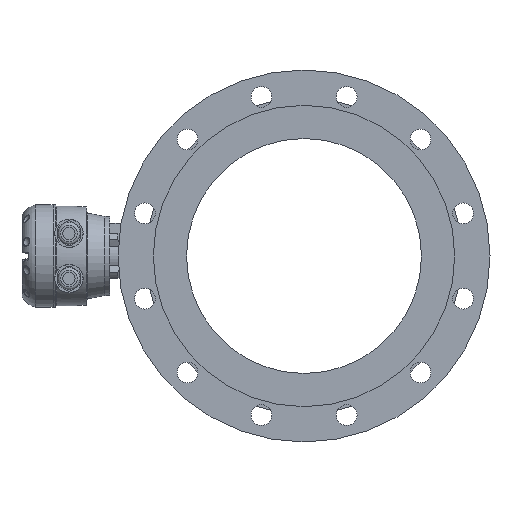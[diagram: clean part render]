
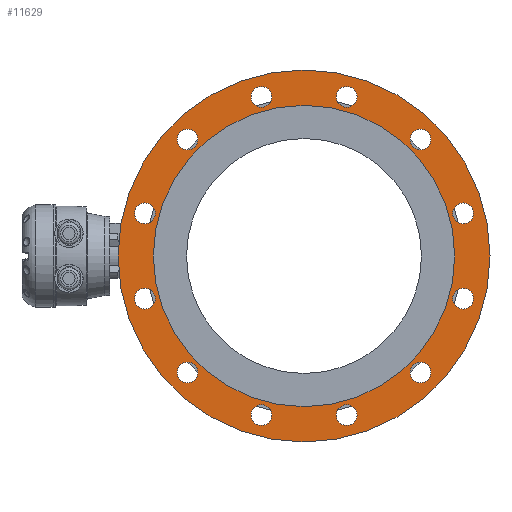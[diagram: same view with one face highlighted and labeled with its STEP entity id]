
A CAD part, left-side view. The second image highlights one B-rep face of the part: STEP entity #11629.
In plain terms, the highlighted planar face has unit normal (-1, 0, 0).
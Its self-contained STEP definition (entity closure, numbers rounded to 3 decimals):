
#207 = ORIENTED_EDGE ( 'NONE', *, *, #1969, .F. ) ;
#208 = ORIENTED_EDGE ( 'NONE', *, *, #9959, .F. ) ;
#209 = ORIENTED_EDGE ( 'NONE', *, *, #9957, .F. ) ;
#210 = ORIENTED_EDGE ( 'NONE', *, *, #10006, .F. ) ;
#211 = ORIENTED_EDGE ( 'NONE', *, *, #10017, .F. ) ;
#212 = ORIENTED_EDGE ( 'NONE', *, *, #9992, .F. ) ;
#213 = ORIENTED_EDGE ( 'NONE', *, *, #9985, .F. ) ;
#214 = ORIENTED_EDGE ( 'NONE', *, *, #9971, .F. ) ;
#215 = ORIENTED_EDGE ( 'NONE', *, *, #9968, .F. ) ;
#216 = ORIENTED_EDGE ( 'NONE', *, *, #9965, .F. ) ;
#217 = ORIENTED_EDGE ( 'NONE', *, *, #9958, .F. ) ;
#218 = ORIENTED_EDGE ( 'NONE', *, *, #9960, .F. ) ;
#219 = ORIENTED_EDGE ( 'NONE', *, *, #10114, .F. ) ;
#220 = ORIENTED_EDGE ( 'NONE', *, *, #9973, .T. ) ;
#746 = CIRCLE ( 'NONE', #10186, 11. ) ;
#1969 = EDGE_CURVE ( 'NONE', #13999, #13999, #746, .T. ) ;
#3879 = EDGE_LOOP ( 'NONE', ( #208 ) ) ;
#3880 = EDGE_LOOP ( 'NONE', ( #210 ) ) ;
#3881 = EDGE_LOOP ( 'NONE', ( #209 ) ) ;
#3882 = EDGE_LOOP ( 'NONE', ( #212 ) ) ;
#3883 = EDGE_LOOP ( 'NONE', ( #211 ) ) ;
#3884 = EDGE_LOOP ( 'NONE', ( #214 ) ) ;
#3885 = EDGE_LOOP ( 'NONE', ( #213 ) ) ;
#3886 = EDGE_LOOP ( 'NONE', ( #216 ) ) ;
#3887 = EDGE_LOOP ( 'NONE', ( #215 ) ) ;
#3903 = EDGE_LOOP ( 'NONE', ( #217 ) ) ;
#3904 = EDGE_LOOP ( 'NONE', ( #218 ) ) ;
#3905 = EDGE_LOOP ( 'NONE', ( #207 ) ) ;
#3934 = EDGE_LOOP ( 'NONE', ( #219 ) ) ;
#3935 = EDGE_LOOP ( 'NONE', ( #220 ) ) ;
#6500 = CARTESIAN_POINT ( 'NONE',  ( -189.805, -154.724, 158.494 ) ) ;
#6503 = CARTESIAN_POINT ( 'NONE',  ( -189.805, -76.273, -134.286 ) ) ;
#6506 = CARTESIAN_POINT ( 'NONE',  ( -189.805, -76.273, 113.201 ) ) ;
#6507 = DIRECTION ( 'NONE',  ( -1., 0., 0. ) ) ;
#6508 = DIRECTION ( 'NONE',  ( 0., 0., 1. ) ) ;
#6509 = CARTESIAN_POINT ( 'NONE',  ( -189.805, -30.98, -55.836 ) ) ;
#6510 = DIRECTION ( 'NONE',  ( -1., 0., 0. ) ) ;
#6511 = DIRECTION ( 'NONE',  ( 0., 0., 1. ) ) ;
#6513 = DIRECTION ( 'NONE',  ( -1., 0., 0. ) ) ;
#6514 = DIRECTION ( 'NONE',  ( 0., 0., 1. ) ) ;
#6516 = DIRECTION ( 'NONE',  ( -1., 0., 0. ) ) ;
#6517 = DIRECTION ( 'NONE',  ( 0., 0., 1. ) ) ;
#6524 = CARTESIAN_POINT ( 'NONE',  ( -189.805, -154.724, -179.58 ) ) ;
#6531 = DIRECTION ( 'NONE',  ( -1., 0., 0. ) ) ;
#6532 = DIRECTION ( 'NONE',  ( 0., 0., 1. ) ) ;
#6533 = CARTESIAN_POINT ( 'NONE',  ( -189.805, -245.31, -179.58 ) ) ;
#6540 = DIRECTION ( 'NONE',  ( -1., 0., 0. ) ) ;
#6541 = DIRECTION ( 'NONE',  ( 0., 0., 1. ) ) ;
#6542 = CARTESIAN_POINT ( 'NONE',  ( -189.805, -323.761, -134.286 ) ) ;
#6548 = CARTESIAN_POINT ( 'NONE',  ( -189.805, -200.017, -10.543 ) ) ;
#6549 = DIRECTION ( 'NONE',  ( -1., 0., 0. ) ) ;
#6550 = DIRECTION ( 'NONE',  ( 0., 0., 1. ) ) ;
#6555 = DIRECTION ( 'NONE',  ( 1., 0., 0. ) ) ;
#6556 = DIRECTION ( 'NONE',  ( 0., 0., -1. ) ) ;
#6583 = CARTESIAN_POINT ( 'NONE',  ( -189.805, -369.054, -55.836 ) ) ;
#6591 = DIRECTION ( 'NONE',  ( -1., 0., 0. ) ) ;
#6592 = DIRECTION ( 'NONE',  ( 0., 0., 1. ) ) ;
#6655 = CARTESIAN_POINT ( 'NONE',  ( -189.805, -369.054, 34.751 ) ) ;
#6656 = DIRECTION ( 'NONE',  ( -1., 0., 0. ) ) ;
#6657 = DIRECTION ( 'NONE',  ( 0., 0., 1. ) ) ;
#6713 = CARTESIAN_POINT ( 'NONE',  ( -189.805, -245.31, 158.494 ) ) ;
#6720 = DIRECTION ( 'NONE',  ( -1., 0., 0. ) ) ;
#6721 = DIRECTION ( 'NONE',  ( 0., 0., 1. ) ) ;
#6771 = CARTESIAN_POINT ( 'NONE',  ( -189.805, -323.761, 113.201 ) ) ;
#6772 = DIRECTION ( 'NONE',  ( -1., 0., 0. ) ) ;
#6773 = DIRECTION ( 'NONE',  ( 0., 0., 1. ) ) ;
#6968 = CARTESIAN_POINT ( 'NONE',  ( -189.805, -200.017, -10.543 ) ) ;
#6986 = DIRECTION ( 'NONE',  ( 1., 0., 0. ) ) ;
#6987 = DIRECTION ( 'NONE',  ( 0., 0., -1. ) ) ;
#7421 = CARTESIAN_POINT ( 'NONE',  ( -189.805, -30.98, 34.751 ) ) ;
#7423 = DIRECTION ( 'NONE',  ( -1., 0., 0. ) ) ;
#7424 = DIRECTION ( 'NONE',  ( 0., 0., 1. ) ) ;
#9957 = EDGE_CURVE ( 'NONE', #14109, #14109, #11892, .T. ) ;
#9958 = EDGE_CURVE ( 'NONE', #14111, #14111, #11893, .T. ) ;
#9959 = EDGE_CURVE ( 'NONE', #14113, #14113, #11894, .T. ) ;
#9960 = EDGE_CURVE ( 'NONE', #14115, #14115, #11895, .T. ) ;
#9965 = EDGE_CURVE ( 'NONE', #14125, #14125, #11900, .T. ) ;
#9968 = EDGE_CURVE ( 'NONE', #14131, #14131, #11903, .T. ) ;
#9971 = EDGE_CURVE ( 'NONE', #14137, #14137, #11906, .T. ) ;
#9973 = EDGE_CURVE ( 'NONE', #14141, #14141, #11908, .T. ) ;
#9985 = EDGE_CURVE ( 'NONE', #14161, #14161, #11920, .T. ) ;
#9992 = EDGE_CURVE ( 'NONE', #14171, #14171, #11927, .T. ) ;
#10006 = EDGE_CURVE ( 'NONE', #14197, #14197, #11940, .T. ) ;
#10017 = EDGE_CURVE ( 'NONE', #14215, #14215, #11950, .T. ) ;
#10114 = EDGE_CURVE ( 'NONE', #14225, #14225, #12125, .T. ) ;
#10186 = AXIS2_PLACEMENT_3D ( 'NONE', #7421, #7423, #7424 ) ;
#10292 = AXIS2_PLACEMENT_3D ( 'NONE', #6968, #6986, #6987 ) ;
#10299 = AXIS2_PLACEMENT_3D ( 'NONE', #6500, #6507, #6508 ) ;
#10300 = AXIS2_PLACEMENT_3D ( 'NONE', #6503, #6510, #6511 ) ;
#10301 = AXIS2_PLACEMENT_3D ( 'NONE', #6506, #6513, #6514 ) ;
#10302 = AXIS2_PLACEMENT_3D ( 'NONE', #6509, #6516, #6517 ) ;
#10307 = AXIS2_PLACEMENT_3D ( 'NONE', #6524, #6531, #6532 ) ;
#10310 = AXIS2_PLACEMENT_3D ( 'NONE', #6533, #6540, #6541 ) ;
#10313 = AXIS2_PLACEMENT_3D ( 'NONE', #6542, #6549, #6550 ) ;
#10315 = AXIS2_PLACEMENT_3D ( 'NONE', #6548, #6555, #6556 ) ;
#10327 = AXIS2_PLACEMENT_3D ( 'NONE', #6583, #6591, #6592 ) ;
#10332 = AXIS2_PLACEMENT_3D ( 'NONE', #6655, #6656, #6657 ) ;
#10345 = AXIS2_PLACEMENT_3D ( 'NONE', #6713, #6720, #6721 ) ;
#10354 = AXIS2_PLACEMENT_3D ( 'NONE', #6771, #6772, #6773 ) ;
#10468 = AXIS2_PLACEMENT_3D ( 'NONE', #13051, #13052, #13053 ) ;
#11629 = ADVANCED_FACE ( 'NONE', ( #12442, #12448, #12450, #12452, #12446, #12441, #12449, #12451, #12453, #12447, #12454, #12455, #12456, #12457 ), #13047, .T. ) ;
#11892 = CIRCLE ( 'NONE', #10299, 11. ) ;
#11893 = CIRCLE ( 'NONE', #10300, 11. ) ;
#11894 = CIRCLE ( 'NONE', #10301, 11. ) ;
#11895 = CIRCLE ( 'NONE', #10302, 11. ) ;
#11900 = CIRCLE ( 'NONE', #10307, 11. ) ;
#11903 = CIRCLE ( 'NONE', #10310, 11. ) ;
#11906 = CIRCLE ( 'NONE', #10313, 11. ) ;
#11908 = CIRCLE ( 'NONE', #10315, 160. ) ;
#11920 = CIRCLE ( 'NONE', #10327, 11. ) ;
#11927 = CIRCLE ( 'NONE', #10332, 11. ) ;
#11940 = CIRCLE ( 'NONE', #10345, 11. ) ;
#11950 = CIRCLE ( 'NONE', #10354, 11. ) ;
#12125 = CIRCLE ( 'NONE', #10292, 197.5 ) ;
#12441 = FACE_BOUND ( 'NONE', #3882, .T. ) ;
#12442 = FACE_BOUND ( 'NONE', #3905, .T. ) ;
#12446 = FACE_BOUND ( 'NONE', #3883, .T. ) ;
#12447 = FACE_BOUND ( 'NONE', #3886, .T. ) ;
#12448 = FACE_BOUND ( 'NONE', #3879, .T. ) ;
#12449 = FACE_BOUND ( 'NONE', #3885, .T. ) ;
#12450 = FACE_BOUND ( 'NONE', #3881, .T. ) ;
#12451 = FACE_BOUND ( 'NONE', #3884, .T. ) ;
#12452 = FACE_BOUND ( 'NONE', #3880, .T. ) ;
#12453 = FACE_BOUND ( 'NONE', #3887, .T. ) ;
#12454 = FACE_BOUND ( 'NONE', #3903, .T. ) ;
#12455 = FACE_BOUND ( 'NONE', #3904, .T. ) ;
#12456 = FACE_OUTER_BOUND ( 'NONE', #3934, .T. ) ;
#12457 = FACE_BOUND ( 'NONE', #3935, .T. ) ;
#13047 = PLANE ( 'NONE',  #10468 ) ;
#13051 = CARTESIAN_POINT ( 'NONE',  ( -189.805, -200.017, -10.543 ) ) ;
#13052 = DIRECTION ( 'NONE',  ( -1., 0., 0. ) ) ;
#13053 = DIRECTION ( 'NONE',  ( 0., 0., -1. ) ) ;
#13999 = VERTEX_POINT ( 'NONE', #14000 ) ;
#14000 = CARTESIAN_POINT ( 'NONE',  ( -189.805, -30.98, 45.751 ) ) ;
#14109 = VERTEX_POINT ( 'NONE', #14110 ) ;
#14110 = CARTESIAN_POINT ( 'NONE',  ( -189.805, -154.724, 169.494 ) ) ;
#14111 = VERTEX_POINT ( 'NONE', #14112 ) ;
#14112 = CARTESIAN_POINT ( 'NONE',  ( -189.805, -76.273, -123.286 ) ) ;
#14113 = VERTEX_POINT ( 'NONE', #14114 ) ;
#14114 = CARTESIAN_POINT ( 'NONE',  ( -189.805, -76.273, 124.201 ) ) ;
#14115 = VERTEX_POINT ( 'NONE', #14116 ) ;
#14116 = CARTESIAN_POINT ( 'NONE',  ( -189.805, -30.98, -44.836 ) ) ;
#14125 = VERTEX_POINT ( 'NONE', #14126 ) ;
#14126 = CARTESIAN_POINT ( 'NONE',  ( -189.805, -154.724, -168.58 ) ) ;
#14131 = VERTEX_POINT ( 'NONE', #14132 ) ;
#14132 = CARTESIAN_POINT ( 'NONE',  ( -189.805, -245.31, -168.58 ) ) ;
#14137 = VERTEX_POINT ( 'NONE', #14138 ) ;
#14138 = CARTESIAN_POINT ( 'NONE',  ( -189.805, -323.761, -123.286 ) ) ;
#14141 = VERTEX_POINT ( 'NONE', #14142 ) ;
#14142 = CARTESIAN_POINT ( 'NONE',  ( -189.805, -200.017, -170.543 ) ) ;
#14161 = VERTEX_POINT ( 'NONE', #14162 ) ;
#14162 = CARTESIAN_POINT ( 'NONE',  ( -189.805, -369.054, -44.836 ) ) ;
#14171 = VERTEX_POINT ( 'NONE', #14172 ) ;
#14172 = CARTESIAN_POINT ( 'NONE',  ( -189.805, -369.054, 45.751 ) ) ;
#14197 = VERTEX_POINT ( 'NONE', #14198 ) ;
#14198 = CARTESIAN_POINT ( 'NONE',  ( -189.805, -245.31, 169.494 ) ) ;
#14215 = VERTEX_POINT ( 'NONE', #14216 ) ;
#14216 = CARTESIAN_POINT ( 'NONE',  ( -189.805, -323.761, 124.201 ) ) ;
#14225 = VERTEX_POINT ( 'NONE', #14226 ) ;
#14226 = CARTESIAN_POINT ( 'NONE',  ( -189.805, -200.017, -208.043 ) ) ;
